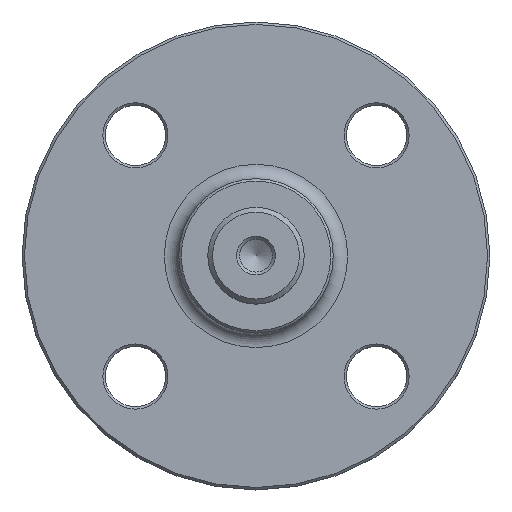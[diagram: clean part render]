
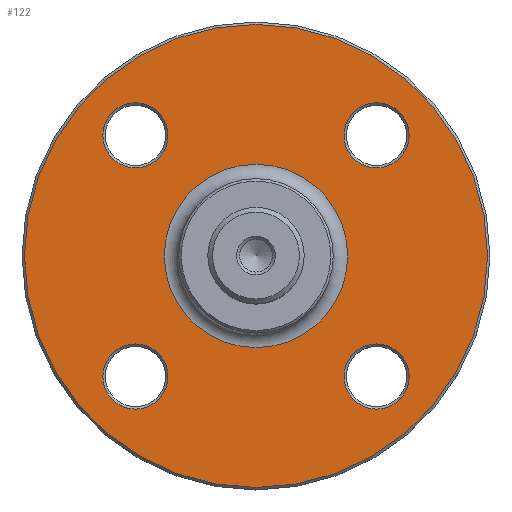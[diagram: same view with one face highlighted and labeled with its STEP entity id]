
A CAD part, top view. The second image highlights one B-rep face of the part: STEP entity #122.
In plain terms, the highlighted planar face has unit normal (0, 0, 1).
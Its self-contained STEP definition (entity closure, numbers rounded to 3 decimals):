
#116=PLANE('',#510);
#122=ADVANCED_FACE('',(#168,#169,#170,#171,#172,#173),#116,.T.);
#168=FACE_BOUND('',#242,.T.);
#169=FACE_BOUND('',#243,.T.);
#170=FACE_BOUND('',#244,.T.);
#171=FACE_BOUND('',#245,.T.);
#172=FACE_BOUND('',#246,.T.);
#173=FACE_BOUND('',#247,.T.);
#242=EDGE_LOOP('',(#316));
#243=EDGE_LOOP('',(#317));
#244=EDGE_LOOP('',(#318));
#245=EDGE_LOOP('',(#319));
#246=EDGE_LOOP('',(#320));
#247=EDGE_LOOP('',(#321));
#316=ORIENTED_EDGE('',*,*,#428,.T.);
#317=ORIENTED_EDGE('',*,*,#429,.T.);
#318=ORIENTED_EDGE('',*,*,#430,.T.);
#319=ORIENTED_EDGE('',*,*,#431,.T.);
#320=ORIENTED_EDGE('',*,*,#432,.T.);
#321=ORIENTED_EDGE('',*,*,#433,.T.);
#390=VERTEX_POINT('',#723);
#391=VERTEX_POINT('',#725);
#392=VERTEX_POINT('',#727);
#393=VERTEX_POINT('',#729);
#394=VERTEX_POINT('',#731);
#395=VERTEX_POINT('',#733);
#428=EDGE_CURVE('',#390,#390,#465,.T.);
#429=EDGE_CURVE('',#391,#391,#466,.T.);
#430=EDGE_CURVE('',#392,#392,#467,.T.);
#431=EDGE_CURVE('',#393,#393,#468,.T.);
#432=EDGE_CURVE('',#394,#394,#469,.T.);
#433=EDGE_CURVE('',#395,#395,#470,.T.);
#465=CIRCLE('',#504,6.75);
#466=CIRCLE('',#505,6.75);
#467=CIRCLE('',#506,6.75);
#468=CIRCLE('',#507,6.75);
#469=CIRCLE('',#508,19.);
#470=CIRCLE('',#509,48.);
#504=AXIS2_PLACEMENT_3D('',#722,#580,#581);
#505=AXIS2_PLACEMENT_3D('',#724,#582,#583);
#506=AXIS2_PLACEMENT_3D('',#726,#584,#585);
#507=AXIS2_PLACEMENT_3D('',#728,#586,#587);
#508=AXIS2_PLACEMENT_3D('',#730,#588,#589);
#509=AXIS2_PLACEMENT_3D('',#732,#590,#591);
#510=AXIS2_PLACEMENT_3D('',#734,#592,#593);
#580=DIRECTION('',(0.,0.,-1.));
#581=DIRECTION('',(1.,0.,0.));
#582=DIRECTION('',(0.,0.,-1.));
#583=DIRECTION('',(1.,0.,0.));
#584=DIRECTION('',(0.,0.,-1.));
#585=DIRECTION('',(1.,0.,0.));
#586=DIRECTION('',(0.,0.,-1.));
#587=DIRECTION('',(1.,0.,0.));
#588=DIRECTION('',(0.,0.,-1.));
#589=DIRECTION('',(1.,0.,0.));
#590=DIRECTION('',(0.,0.,1.));
#591=DIRECTION('',(1.,0.,0.));
#592=DIRECTION('',(0.,0.,1.));
#593=DIRECTION('',(1.,0.,0.));
#722=CARTESIAN_POINT('',(25.,-25.,12.));
#723=CARTESIAN_POINT('',(31.75,-25.,12.));
#724=CARTESIAN_POINT('',(-25.,-25.,12.));
#725=CARTESIAN_POINT('',(-18.25,-25.,12.));
#726=CARTESIAN_POINT('',(-25.,25.,12.));
#727=CARTESIAN_POINT('',(-18.25,25.,12.));
#728=CARTESIAN_POINT('',(25.,25.,12.));
#729=CARTESIAN_POINT('',(31.75,25.,12.));
#730=CARTESIAN_POINT('',(0.,0.,12.));
#731=CARTESIAN_POINT('',(19.,0.,12.));
#732=CARTESIAN_POINT('',(0.,0.,12.));
#733=CARTESIAN_POINT('',(48.,0.,12.));
#734=CARTESIAN_POINT('',(0.,0.,12.));
